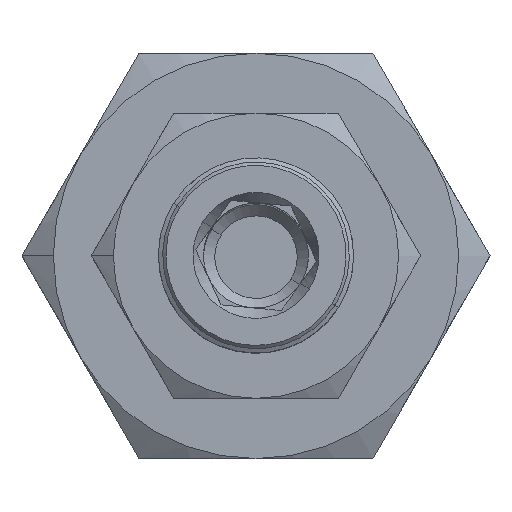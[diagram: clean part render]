
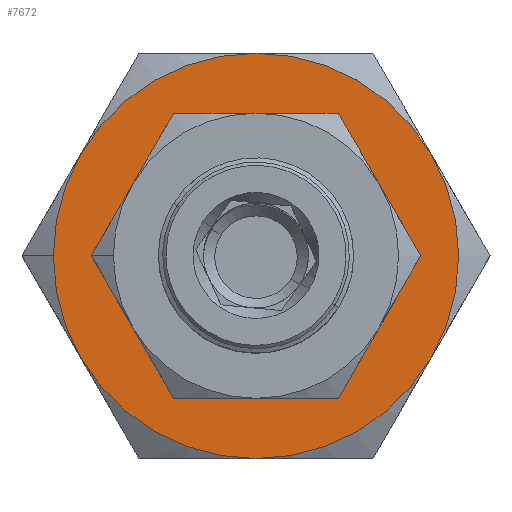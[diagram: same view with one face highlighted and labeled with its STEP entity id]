
A CAD part, top view. The second image highlights one B-rep face of the part: STEP entity #7672.
In plain terms, the highlighted planar face has unit normal (0, 0, 1).
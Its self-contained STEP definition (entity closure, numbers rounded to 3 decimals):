
#108 = CIRCLE ( 'NONE', #7513, 13.5 ) ;
#396 = CARTESIAN_POINT ( 'NONE',  ( 7.572, 6.539, 52.677 ) ) ;
#743 = DIRECTION ( 'NONE',  ( 0., 0., -1. ) ) ;
#779 = CARTESIAN_POINT ( 'NONE',  ( -4.119, -0.211, 52.677 ) ) ;
#832 = VERTEX_POINT ( 'NONE', #5859 ) ;
#854 = CIRCLE ( 'NONE', #13733, 13.5 ) ;
#1118 = CIRCLE ( 'NONE', #4602, 13.5 ) ;
#1424 = VERTEX_POINT ( 'NONE', #779 ) ;
#1713 = AXIS2_PLACEMENT_3D ( 'NONE', #7007, #16318, #8340 ) ;
#1743 = DIRECTION ( 'NONE',  ( -1., 0., 0. ) ) ;
#2108 = ORIENTED_EDGE ( 'NONE', *, *, #2553, .F. ) ;
#2130 = CIRCLE ( 'NONE', #1713, 13.5 ) ;
#2138 = CARTESIAN_POINT ( 'NONE',  ( 7.572, 6.539, 52.677 ) ) ;
#2426 = EDGE_CURVE ( 'NONE', #4346, #5650, #1118, .T. ) ;
#2472 = DIRECTION ( 'NONE',  ( 0., 0., -1. ) ) ;
#2553 = EDGE_CURVE ( 'NONE', #6656, #4346, #6757, .T. ) ;
#2679 = CARTESIAN_POINT ( 'NONE',  ( -5.928, 6.539, 52.677 ) ) ;
#2744 = DIRECTION ( 'NONE',  ( 0., 0., -1. ) ) ;
#2767 = ORIENTED_EDGE ( 'NONE', *, *, #12093, .F. ) ;
#3101 = DIRECTION ( 'NONE',  ( 0., 0., -1. ) ) ;
#3297 = DIRECTION ( 'NONE',  ( 0., 0., -1. ) ) ;
#3437 = CARTESIAN_POINT ( 'NONE',  ( 7.572, 6.539, 52.677 ) ) ;
#3483 = AXIS2_PLACEMENT_3D ( 'NONE', #10426, #2472, #11774 ) ;
#3486 = DIRECTION ( 'NONE',  ( -1., 0., 0. ) ) ;
#3531 = AXIS2_PLACEMENT_3D ( 'NONE', #3437, #12721, #4762 ) ;
#3782 = EDGE_LOOP ( 'NONE', ( #10171, #10238, #5903, #12794, #7787, #6760, #2108 ) ) ;
#4266 = CARTESIAN_POINT ( 'NONE',  ( 7.572, -6.961, 52.677 ) ) ;
#4346 = VERTEX_POINT ( 'NONE', #8406 ) ;
#4576 = PLANE ( 'NONE',  #14723 ) ;
#4602 = AXIS2_PLACEMENT_3D ( 'NONE', #11051, #3101, #12397 ) ;
#4762 = DIRECTION ( 'NONE',  ( 1., 0., 0. ) ) ;
#5061 = FACE_OUTER_BOUND ( 'NONE', #3782, .T. ) ;
#5300 = VERTEX_POINT ( 'NONE', #2679 ) ;
#5591 = DIRECTION ( 'NONE',  ( 0., 0., 1. ) ) ;
#5650 = VERTEX_POINT ( 'NONE', #8743 ) ;
#5859 = CARTESIAN_POINT ( 'NONE',  ( -4.119, 13.289, 52.677 ) ) ;
#5903 = ORIENTED_EDGE ( 'NONE', *, *, #16098, .F. ) ;
#6141 = EDGE_LOOP ( 'NONE', ( #2767, #9751 ) ) ;
#6199 = CARTESIAN_POINT ( 'NONE',  ( 1.072, 6.539, 52.677 ) ) ;
#6656 = VERTEX_POINT ( 'NONE', #11049 ) ;
#6669 = CIRCLE ( 'NONE', #12205, 13.5 ) ;
#6757 = CIRCLE ( 'NONE', #7175, 13.5 ) ;
#6760 = ORIENTED_EDGE ( 'NONE', *, *, #2426, .F. ) ;
#7007 = CARTESIAN_POINT ( 'NONE',  ( 7.572, 6.539, 52.677 ) ) ;
#7175 = AXIS2_PLACEMENT_3D ( 'NONE', #8724, #743, #10059 ) ;
#7513 = AXIS2_PLACEMENT_3D ( 'NONE', #10690, #2744, #12030 ) ;
#7672 = ADVANCED_FACE ( 'NONE', ( #15221, #5061 ), #4576, .F. ) ;
#7787 = ORIENTED_EDGE ( 'NONE', *, *, #17227, .F. ) ;
#8299 = EDGE_CURVE ( 'NONE', #832, #6656, #854, .T. ) ;
#8340 = DIRECTION ( 'NONE',  ( -1., 0., 0. ) ) ;
#8406 = CARTESIAN_POINT ( 'NONE',  ( 19.264, 13.289, 52.677 ) ) ;
#8422 = CIRCLE ( 'NONE', #13132, 6.5 ) ;
#8724 = CARTESIAN_POINT ( 'NONE',  ( 7.572, 6.539, 52.677 ) ) ;
#8743 = CARTESIAN_POINT ( 'NONE',  ( 19.264, -0.211, 52.677 ) ) ;
#8941 = CIRCLE ( 'NONE', #3531, 6.5 ) ;
#9387 = EDGE_CURVE ( 'NONE', #5300, #832, #108, .T. ) ;
#9689 = DIRECTION ( 'NONE',  ( 0., 0., -1. ) ) ;
#9751 = ORIENTED_EDGE ( 'NONE', *, *, #14985, .F. ) ;
#10059 = DIRECTION ( 'NONE',  ( -1., 0., 0. ) ) ;
#10171 = ORIENTED_EDGE ( 'NONE', *, *, #8299, .F. ) ;
#10238 = ORIENTED_EDGE ( 'NONE', *, *, #9387, .F. ) ;
#10426 = CARTESIAN_POINT ( 'NONE',  ( 7.572, 6.539, 52.677 ) ) ;
#10510 = CARTESIAN_POINT ( 'NONE',  ( 14.072, 6.539, 52.677 ) ) ;
#10690 = CARTESIAN_POINT ( 'NONE',  ( 7.572, 6.539, 52.677 ) ) ;
#11049 = CARTESIAN_POINT ( 'NONE',  ( 7.572, 20.039, 52.677 ) ) ;
#11051 = CARTESIAN_POINT ( 'NONE',  ( 7.572, 6.539, 52.677 ) ) ;
#11243 = CARTESIAN_POINT ( 'NONE',  ( 23.161, 6.539, 52.677 ) ) ;
#11429 = DIRECTION ( 'NONE',  ( 0., 0., -1. ) ) ;
#11774 = DIRECTION ( 'NONE',  ( -1., 0., 0. ) ) ;
#12030 = DIRECTION ( 'NONE',  ( -1., 0., 0. ) ) ;
#12093 = EDGE_CURVE ( 'NONE', #16991, #12712, #8422, .T. ) ;
#12127 = VERTEX_POINT ( 'NONE', #4266 ) ;
#12205 = AXIS2_PLACEMENT_3D ( 'NONE', #396, #9689, #1743 ) ;
#12397 = DIRECTION ( 'NONE',  ( -1., 0., 0. ) ) ;
#12588 = DIRECTION ( 'NONE',  ( -1., 0., 0. ) ) ;
#12712 = VERTEX_POINT ( 'NONE', #6199 ) ;
#12721 = DIRECTION ( 'NONE',  ( 0., 0., 1. ) ) ;
#12794 = ORIENTED_EDGE ( 'NONE', *, *, #14606, .F. ) ;
#12811 = CIRCLE ( 'NONE', #3483, 13.5 ) ;
#13132 = AXIS2_PLACEMENT_3D ( 'NONE', #13545, #5591, #14880 ) ;
#13545 = CARTESIAN_POINT ( 'NONE',  ( 7.572, 6.539, 52.677 ) ) ;
#13733 = AXIS2_PLACEMENT_3D ( 'NONE', #2138, #11429, #3486 ) ;
#14606 = EDGE_CURVE ( 'NONE', #12127, #1424, #6669, .T. ) ;
#14723 = AXIS2_PLACEMENT_3D ( 'NONE', #11243, #3297, #12588 ) ;
#14880 = DIRECTION ( 'NONE',  ( 1., 0., 0. ) ) ;
#14985 = EDGE_CURVE ( 'NONE', #12712, #16991, #8941, .T. ) ;
#15221 = FACE_BOUND ( 'NONE', #6141, .T. ) ;
#16098 = EDGE_CURVE ( 'NONE', #1424, #5300, #12811, .T. ) ;
#16318 = DIRECTION ( 'NONE',  ( 0., 0., -1. ) ) ;
#16991 = VERTEX_POINT ( 'NONE', #10510 ) ;
#17227 = EDGE_CURVE ( 'NONE', #5650, #12127, #2130, .T. ) ;
